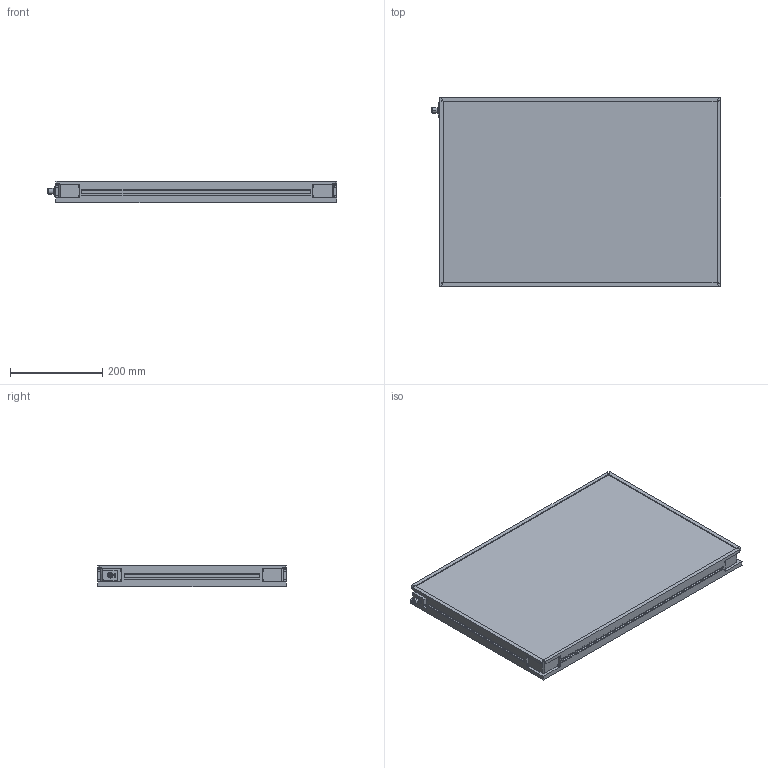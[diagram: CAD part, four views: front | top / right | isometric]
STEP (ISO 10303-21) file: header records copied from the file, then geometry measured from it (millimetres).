
FILE_DESCRIPTION (( 'STEP AP214' ), '1' );
FILE_NAME ('MBACK-xxxx-xxx-M1_CLIENT400x600.STEP', '2022-03-31T16:11:05', ( '' ), ( '' ), 'SwSTEP 2.0', 'SolidWorks 2020', '' );
FILE_SCHEMA (( 'AUTOMOTIVE_DESIGN' ));
Length unit declared in the file: millimetre
Products named in the file (1): MBACK-xxxx-xxx-M1_CLIENT400x600
Bounding box: 625.9 x 408 x 45.5 mm (x, y, z)
Volume: 10279971.5 mm3; surface area: 630895.2 mm2
Topology: 1 solids, 1 shells, 442 faces, 1144 edges, 760 vertices
Faces by surface type: plane 249, cylinder 105, bspline 80, cone 8
Entity records: 17236 total; most frequent: CARTESIAN_POINT 6699, ORIENTED_EDGE 2288, DIRECTION 1936, EDGE_CURVE 1144, VERTEX_POINT 760, LINE 758, VECTOR 758, AXIS2_PLACEMENT_3D 589
